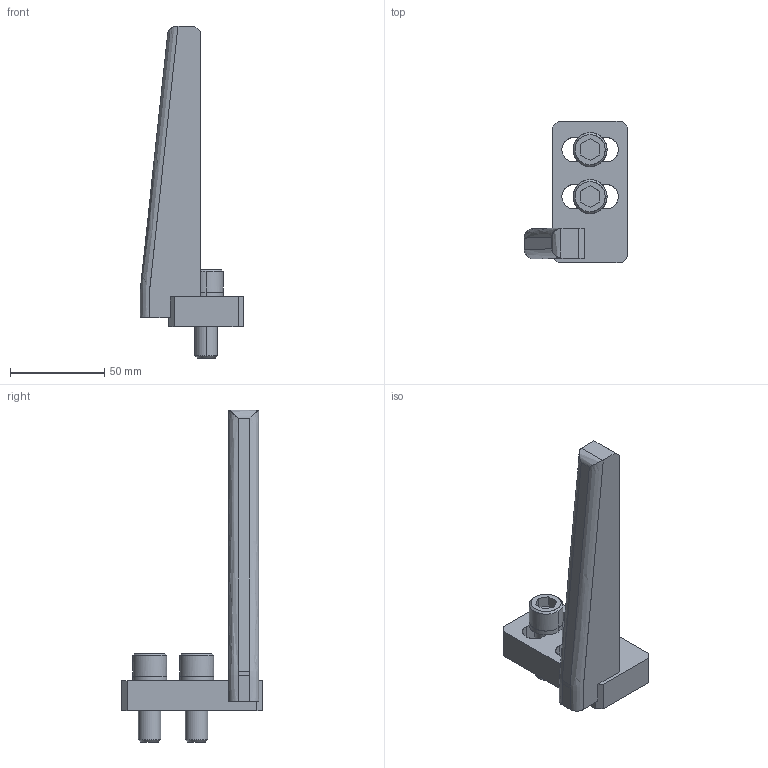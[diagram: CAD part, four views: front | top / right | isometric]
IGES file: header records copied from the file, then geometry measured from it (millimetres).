
Global section: file name: E:\UnigraphicsGraphicData\MISUMI_PRESS-PARTS\IGES\3d_nggbl-160-20-15_01487_r00.igs; native system: NX V5.0; preprocessor: UGS NX IGES V5.0; author: MISUMI; date: 20110105.162032; units: millimetre
Bounding box: 55 x 75 x 176.5 mm (x, y, z)
Surface area: 30451.6 mm2 (no closed solid volume)
Topology: 0 solids, 0 shells, 103 faces, 662 edges, 662 vertices
Faces by surface type: bspline 103
